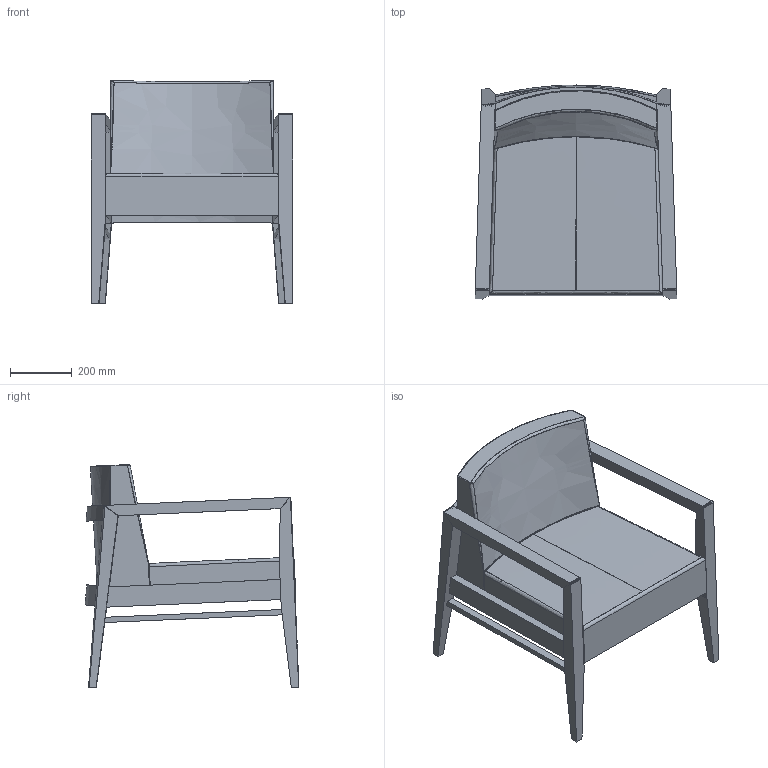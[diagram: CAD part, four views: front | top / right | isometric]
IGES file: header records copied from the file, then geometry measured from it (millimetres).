
Start section: SolidWorks IGES file using analytic representation for surfaces
Global section: file name: C:\Users\Adao\Documents\Trab Adao\Desenho técnico PRODUÇÃO\J M S\SERENA\Linha SERENA (3D)\Poltrona SERENA M-57.IGS; native system: SolidWorks 2012; preprocessor: SolidWorks 2012; author: Adao; date: 121219.172352; units: millimetre
Bounding box: 650.85 x 690.9 x 719.77 mm (x, y, z)
Surface area: 2408237.1 mm2 (no closed solid volume)
Topology: 0 solids, 0 shells, 171 faces, 2302 edges, 2298 vertices
Faces by surface type: bspline 132, revolution 39
